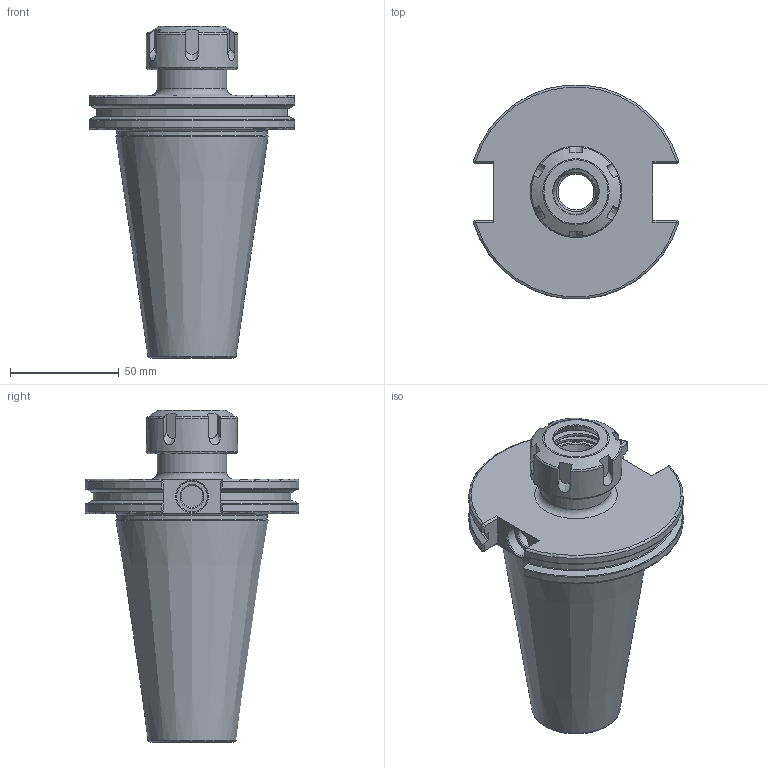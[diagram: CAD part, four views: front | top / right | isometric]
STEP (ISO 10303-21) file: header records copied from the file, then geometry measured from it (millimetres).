
FILE_DESCRIPTION(/* description */ (''),/* implementation_level */ '2;1');
FILE_NAME(/* name */ 'CAT50-ER25-2''''_asm1.prt.stp',/* time_stamp */ '2020-04-11T17:33:20+08:00',/* author */ (''),/* organization */ (''),/* preprocessor_version */ 'ST-DEVELOPER v16',/* originating_system */ 'SIEMENS PLM Software NX 10.0',/* authorisation */ '');
FILE_SCHEMA (('CONFIG_CONTROL_DESIGN'));
Length unit declared in the file: millimetre
Products named in the file (3): CAT50-ER25-2''; ER25UM压帽; CAT50-ER25-2''_asm1
Assembly tree (2 placements, depth 2):
  CAT50-ER25-2''_asm1
    ER25UM压帽
    CAT50-ER25-2''
Bounding box: 94.4 x 98.07 x 152.4 mm (x, y, z)
Volume: 343536.5 mm3; surface area: 53311.3 mm2
Topology: 2 solids, 2 shells, 140 faces, 377 edges, 252 vertices
Faces by surface type: plane 70, torus 23, cylinder 22, cone 19, bspline 6
Full cylindrical faces by diameter (mm): 10 x1, 14 x1, 16.5 x1, 18.3 x1, 20.7 x1, 22.225 x1, 25.7 x1, 26.19 x1, 29 x1, 30.376 x1, 30.5 x1, 32 x1, 32.5 x1, 42 x1, 69 x1
Entity records: 5050 total; most frequent: CARTESIAN_POINT 1454, ORIENTED_EDGE 696, DIRECTION 646, EDGE_CURVE 348, AXIS2_PLACEMENT_3D 254, VERTEX_POINT 247, EDGE_LOOP 179, ADVANCED_FACE 140
